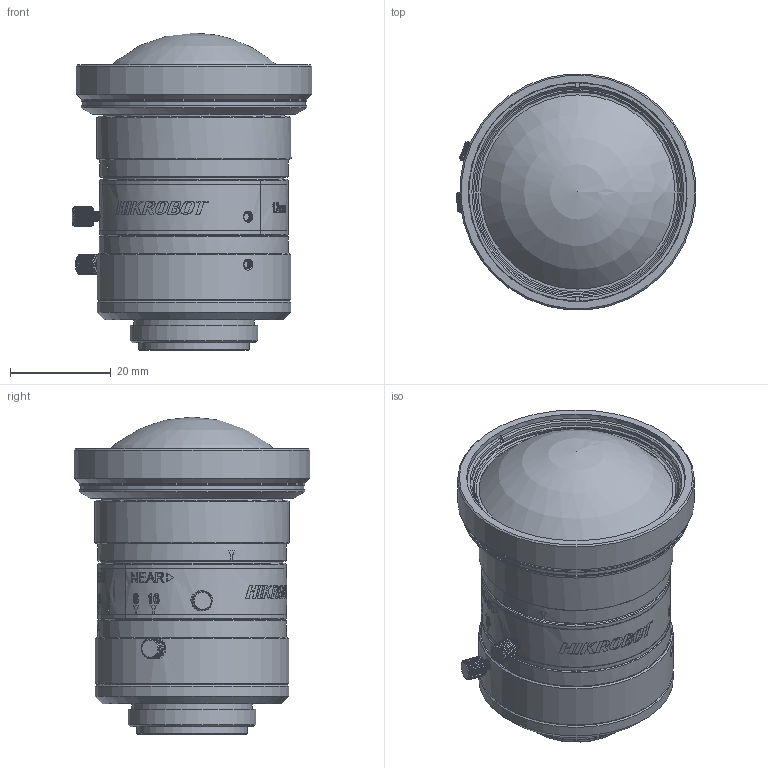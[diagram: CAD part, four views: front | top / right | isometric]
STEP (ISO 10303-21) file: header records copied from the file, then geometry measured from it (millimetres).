
FILE_DESCRIPTION(/* description */ (''),/* implementation_level */ '2;1');
FILE_NAME(/* name */ 'YT60019-B.stp',/* time_stamp */ '2023-07-28T09:56:44+08:00',/* author */ (''),/* organization */ (''),/* preprocessor_version */ 'ST-DEVELOPER v16.7',/* originating_system */ 'SIEMENS PLM Software NX 12.0',/* authorisation */ '');
FILE_SCHEMA (('AUTOMOTIVE_DESIGN { 1 0 10303 214 3 1 1 1 }'));
Length unit declared in the file: millimetre
Products named in the file (1): jian1CFCF8C36qvi
Bounding box: 47.57 x 46.82 x 63.13 mm (x, y, z)
Volume: 66868 mm3; surface area: 16590.7 mm2
Topology: 10 solids, 15 shells, 3585 faces, 10274 edges, 6813 vertices
Faces by surface type: plane 3079, cylinder 218, bspline 161, cone 65, torus 58, sphere 4
Full cylindrical faces by diameter (mm): 0.8 x2, 1.2 x2, 1.3 x1, 1.6 x2, 1.8 x3, 1.9 x2, 2 x2, 2.4 x1, 2.5 x5, 2.9 x3, 3 x1, 15.5 x1, 17.3 x1, 19.46 x2, 20.4 x2, 22 x1, 22.4 x1, 24 x1, 25.4 x1, 36 x3, 37.6 x2, 38.6 x4, 39.8 x1, 40.9 x1, 41.5 x1, 43.5 x1, 44.14 x1, 44.5 x1, 45 x2, 47 x1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
Entity records: 181511 total; most frequent: CARTESIAN_POINT 94629, ORIENTED_EDGE 20032, DIRECTION 15386, EDGE_CURVE 10016, VERTEX_POINT 6716, AXIS2_PLACEMENT_3D 5701, LINE 3984, VECTOR 3984
